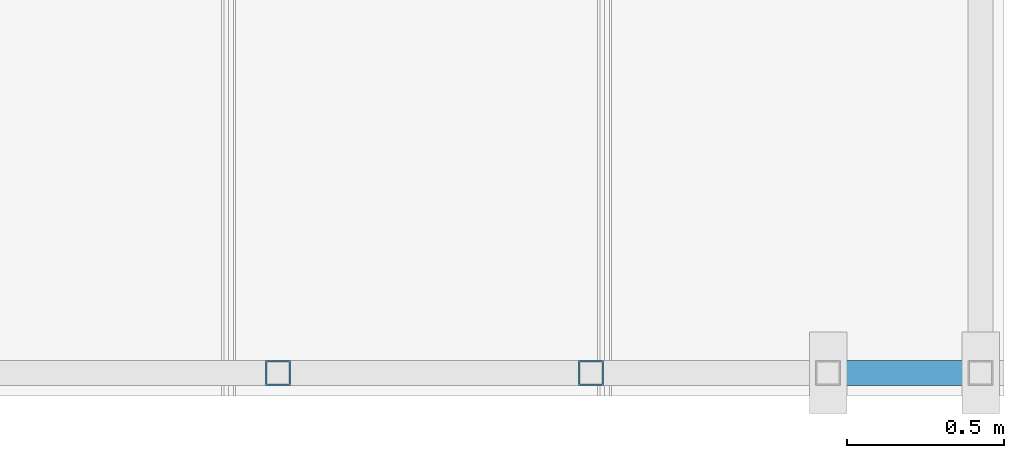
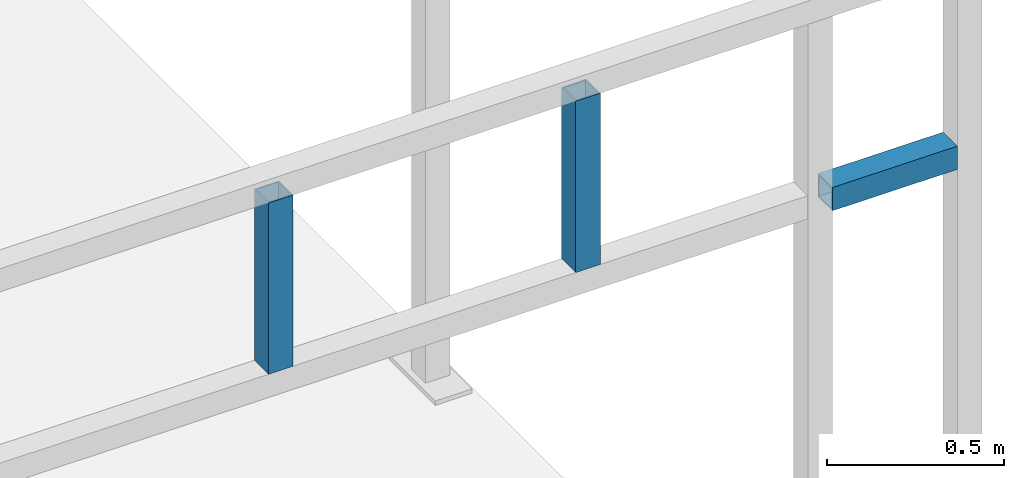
# One storey, part 5 of 20: 3 beams.
"""IFC2X3 building model written with IfcOpenShell, lengths in millimetres."""

from ifc_helpers import new_model, entity, si_unit, converted_unit, derived_unit, direction, frame, origin_with_axes, place, context, subcontext, project, spatial, faceted_brep, material, type_object, element, save


model = new_model("IFC2X3")

# Units and contexts
model_context = context("Model", 3, precision=0.01, world=frame((0.0, 4.29681676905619e-09, 0.0)), true_north=direction((4.01073788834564e-13, 1.0)))
plan_context = context("Plan", 3, precision=0.01, world=frame((0.0, 4.29681676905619e-09, 0.0)), true_north=direction((4.01073788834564e-13, 1.0)))
body_context = subcontext(model_context, "Body", "Model", "MODEL_VIEW")
ifc_project = project(units=[converted_unit("PLANEANGLEUNIT", "DEGREE", entity("IfcPositiveLengthMeasure", 0.0174532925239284), si_unit("PLANEANGLEUNIT", "RADIAN"), dimensions=[0, 0, 0, 0, 0, 0, 0]), si_unit("AREAUNIT", "SQUARE_METRE"), si_unit("LENGTHUNIT", "METRE", prefix="MILLI"), si_unit("MASSUNIT", "GRAM", prefix="KILO"), si_unit("POWERUNIT", "WATT"), si_unit("PRESSUREUNIT", "PASCAL", prefix="KILO"), si_unit("FORCEUNIT", "NEWTON", prefix="KILO"), si_unit("ELECTRICVOLTAGEUNIT", "VOLT"), si_unit("ELECTRICCURRENTUNIT", "AMPERE"), si_unit("THERMODYNAMICTEMPERATUREUNIT", "DEGREE_CELSIUS"), si_unit("TIMEUNIT", "SECOND"), si_unit("VOLUMEUNIT", "CUBIC_METRE"), derived_unit("LINEARVELOCITYUNIT", [(si_unit("LENGTHUNIT", "METRE"), 1), (si_unit("TIMEUNIT", "SECOND"), -1)]), derived_unit("VOLUMETRICFLOWRATEUNIT", [(si_unit("VOLUMEUNIT", "CUBIC_METRE"), 1), (si_unit("TIMEUNIT", "SECOND"), -1)]), derived_unit("THERMALTRANSMITTANCEUNIT", [(si_unit("POWERUNIT", "WATT"), 1), (si_unit("THERMODYNAMICTEMPERATUREUNIT", "KELVIN"), -1), (si_unit("AREAUNIT", "SQUARE_METRE"), -1)]), derived_unit("SOUNDPRESSUREUNIT", [(si_unit("PRESSUREUNIT", "PASCAL"), 1)])], contexts=[model_context, plan_context])

# Site, building, storey
site_placement = place(None, frame((0.0, -4.29681676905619e-09, 0.0), z_axis=(0.0, 0.0, 1.0), x_axis=(1.0, 0.0, 0.0)))
site = spatial("IfcSite", under=ifc_project, at=site_placement, Name="Gardermoen", CompositionType="ELEMENT")
building_placement = place(site_placement, frame((0.0, 4.29681676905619e-09, 0.0), z_axis=(0.0, 0.0, 1.0), x_axis=(1.0, 0.0, 0.0)))
building = spatial("IfcBuilding", under=site, at=building_placement, Name="TS", CompositionType="ELEMENT")
storey_placement = place(building_placement, origin_with_axes())
storey = spatial("IfcBuildingStorey", under=building, at=storey_placement, Name="D", CompositionType="ELEMENT", Elevation=0.0)

# Beams
ifc_material = material(Name="STEEL/S355")
beam_type = type_object("IfcBeamType", Name="RHS80*5", PredefinedType="NOTDEFINED")
for number, where, z_axis, x_axis in (
    (1, (611756.994834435, 397810.985130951, 207170.000492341), (-0.999999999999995, -9.99999902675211e-08, 0.0), (0.0, 0.0, -1.0)),
    (2, (610756.994834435, 397810.985130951, 207170.000492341), (-0.999999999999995, -9.99999902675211e-08, 0.0), (0.0, 0.0, -1.0)),
):
    element("IfcBeam", number, at=place(storey_placement, frame(where, z_axis=z_axis, x_axis=x_axis)), inside=storey, type_object=beam_type, material=ifc_material, Name="STÅLBJELKE", ObjectType="RHS80*5", context=body_context, shape_type="Brep", body=[
        faceted_brep([(0.0, 35.0, -35.0), (0.0, -35.0, -35.0), (590.000773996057, -35.0, -35.0), (590.000773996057, 35.0, -35.0), (0.0, -35.0, 35.0), (590.000773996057, -35.0, 35.0), (0.0, 35.0, 35.0), (590.000773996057, 35.0, 35.0), (0.0, 40.0, -40.0), (0.0, 40.0, 40.0), (590.000773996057, 40.0, 40.0), (590.000773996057, 40.0, -40.0), (0.0, -40.0, 40.0), (590.000773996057, -40.0, 40.0), (0.0, -40.0, -40.0), (590.000773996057, -40.0, -40.0)], [[[0, 1, 2, 3]], [[1, 4, 5, 2]], [[4, 6, 7, 5]], [[6, 0, 3, 7]], [[8, 9, 10, 11]], [[9, 12, 13, 10]], [[12, 14, 15, 13]], [[14, 8, 11, 15]], [[13, 15, 11, 10], [5, 7, 3, 2]], [[14, 12, 9, 8], [6, 4, 1, 0]]]),
    ])
beam_placement = place(storey_placement, frame((612553.004834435, 397810.985130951, 206539.999718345), z_axis=(0.0, 0.0, -1.0), x_axis=(1.0, 0.0, 0.0)))
element("IfcBeam", 3, at=beam_placement, inside=storey, type_object=beam_type, material=ifc_material, Name="STÅLBJELKE", ObjectType="RHS80*5", context=body_context, shape_type="Brep", body=[
    faceted_brep([(0.0, 35.0, -35.0), (0.0, -35.0, -35.0), (407.0, -35.0, -35.0), (407.0, 35.0, -35.0), (0.0, -35.0, 35.0), (407.0, -35.0, 35.0), (0.0, 35.0, 35.0), (407.0, 35.0, 35.0), (0.0, 40.0, -40.0), (0.0, 40.0, 40.0), (407.0, 40.0, 40.0), (407.0, 40.0, -40.0), (0.0, -40.0, 40.0), (407.0, -40.0, 40.0), (0.0, -40.0, -40.0), (407.0, -40.0, -40.0)], [[[0, 1, 2, 3]], [[1, 4, 5, 2]], [[4, 6, 7, 5]], [[6, 0, 3, 7]], [[8, 9, 10, 11]], [[9, 12, 13, 10]], [[12, 14, 15, 13]], [[14, 8, 11, 15]], [[13, 15, 11, 10], [5, 7, 3, 2]], [[14, 12, 9, 8], [6, 4, 1, 0]]]),
])

save(model, "model.ifc")
